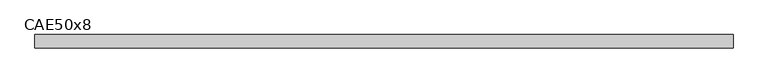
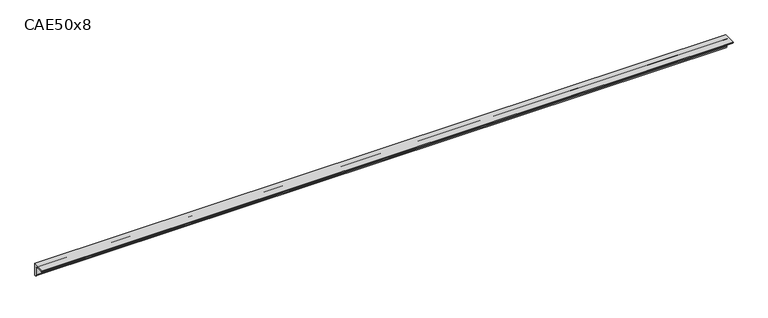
"""IFC4 building model written with IfcOpenShell, lengths in millimetres: beam geometry, L-Cornières : CAE50x8."""

from ifc_helpers import new_model, si_unit, point, frame, frame_2d, origin, place, context, project, spatial, polyline, circle_curve, trimmed, segment, composite_curve, outline, extrude, source, transform, mapped, element, save


def cae50x8_ec52a7eb(model_context):
    return source(origin(), model_context, "Body", "SweptSolid", [
        extrude(outline(composite_curve([segment(polyline([(15.2, 15.2), (15.2, -34.8)]), True, "CONTINUOUS"), segment(trimmed(circle_curve(frame_2d((15.2, -26.8)), 8.0), [point((15.2, -34.8))], [point((7.2, -26.8))], False, "CARTESIAN"), True, "CONTINUOUS"), segment(polyline([(7.2, -26.8), (7.2, -0.8)]), True, "CONTINUOUS"), segment(trimmed(circle_curve(frame_2d((-0.8, -0.8)), 8.0), [point((7.2, -0.8))], [point((-0.8, 7.2))], True, "CARTESIAN"), True, "CONTINUOUS"), segment(polyline([(-0.8, 7.2), (-26.8, 7.2)]), True, "CONTINUOUS"), segment(trimmed(circle_curve(frame_2d((-26.8, 15.2)), 8.0), [point((-26.8, 7.2))], [point((-34.8, 15.2))], False, "CARTESIAN"), True, "CONTINUOUS"), segment(polyline([(-34.8, 15.2), (15.2, 15.2)]), True, "CONTINUOUS")], self_intersect=False)), frame((-1297.5, 0.0, 0.0), z_axis=(1.0, 0.0, 0.0), x_axis=(0.0, 1.0, 0.0)), (0.0, 0.0, 1.0), 2648.0),
    ])


if __name__ == "__main__":
    model = new_model("IFC4")
    model_context = context("Model", 3, world=origin())
    ifc_project = project(units=[si_unit("LENGTHUNIT", "METRE", prefix="MILLI")], contexts=[model_context])
    site = spatial("IfcSite", under=ifc_project)
    building = spatial("IfcBuilding", under=site)
    placement = place(None, origin())
    cae50x8_shape = cae50x8_ec52a7eb(model_context)
    element("IfcBeam", 1, ObjectType="L-Cornières : CAE50x8", at=placement, inside=building, context=model_context, shape_type="MappedRepresentation", body=[
        mapped(cae50x8_shape, transform((0.0, 0.0, 0.0), x_axis=(1.0, 0.0, 0.0), y_axis=(0.0, 1.0, 0.0), z_axis=(0.0, 0.0, 1.0))),
    ])
    save(model, "model.ifc")
